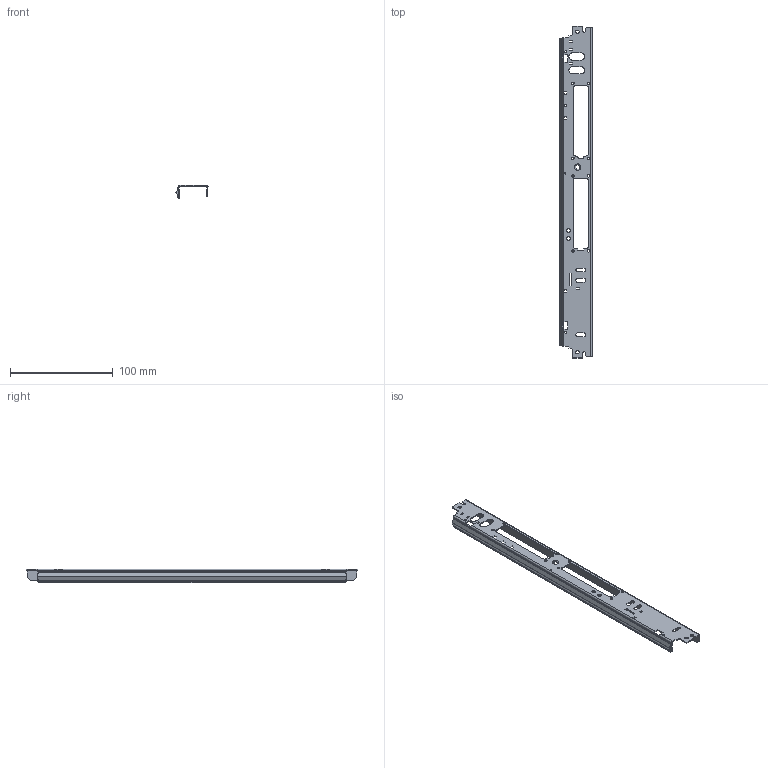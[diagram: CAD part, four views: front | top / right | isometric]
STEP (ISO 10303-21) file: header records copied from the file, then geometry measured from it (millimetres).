
FILE_DESCRIPTION (( 'STEP AP203' ), '1' );
FILE_NAME ('APx4 Front Panel, Rev A; 2024-12-30.STEP', '2024-12-30T15:59:24', ( '' ), ( '' ), 'SwSTEP 2.0', 'SolidWorks 2022', '' );
FILE_SCHEMA (( 'CONFIG_CONTROL_DESIGN' ));
Length unit declared in the file: millimetre
Products named in the file (1): APx4 Front Panel, Rev A; 2024-12-30
Bounding box: 31.2 x 323.15 x 13 mm (x, y, z)
Volume: 16676.7 mm3; surface area: 43879.9 mm2
Topology: 3 solids, 3 shells, 203 faces, 603 edges, 402 vertices
Faces by surface type: plane 125, cylinder 76, cone 2
Entity records: 7026 total; most frequent: CARTESIAN_POINT 1209, ORIENTED_EDGE 1206, DIRECTION 1167, EDGE_CURVE 603, VECTOR 447, LINE 447, VERTEX_POINT 402, AXIS2_PLACEMENT_3D 360
